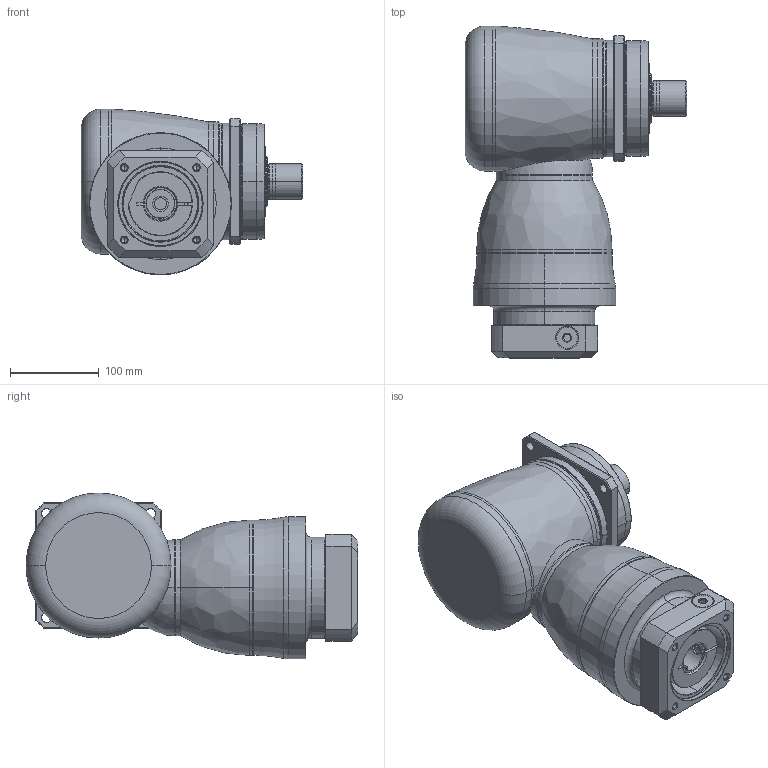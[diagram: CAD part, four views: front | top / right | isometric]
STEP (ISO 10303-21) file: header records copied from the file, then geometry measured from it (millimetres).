
FILE_DESCRIPTION((''),'2;1');
FILE_NAME('KF140_S3_2ST_32-P0409700101_ASM','2016-07-12T',('d01943'),(''),'PRO/ENGINEER BY PARAMETRIC TECHNOLOGY CORPORATION, 2008410','PRO/ENGINEER BY PARAMETRIC TECHNOLOGY CORPORATION, 2008410','');
FILE_SCHEMA(('CONFIG_CONTROL_DESIGN'));
Length unit declared in the file: millimetre
Products named in the file (11): P1008500002; P1804500001; P0915502001; P1315500001; P1007500001; P1317500301; P0409700101; P0503700010; P0912403001; 21711418017; KF140_S3_2ST_32-P0409700101_ASM
Assembly tree (10 placements, depth 2):
  KF140_S3_2ST_32-P0409700101_ASM
    P1008500002
    P1804500001
    P0915502001
    P1315500001
    P1007500001
    P1317500301
    P0409700101
    P0503700010
    P0912403001
    21711418017
Bounding box: 249 x 373 x 186.5 mm (x, y, z)
Volume: 6404765.7 mm3; surface area: 509682.4 mm2
Topology: 11 solids, 11 shells, 449 faces, 996 edges, 585 vertices
Faces by surface type: cylinder 146, cone 122, plane 94, torus 66, bspline 19, sphere 2
Entity records: 17285 total; most frequent: CARTESIAN_POINT 7116, DIRECTION 2257, ORIENTED_EDGE 1952, EDGE_CURVE 976, AXIS2_PLACEMENT_3D 957, VERTEX_POINT 585, EDGE_LOOP 509, CIRCLE 506
